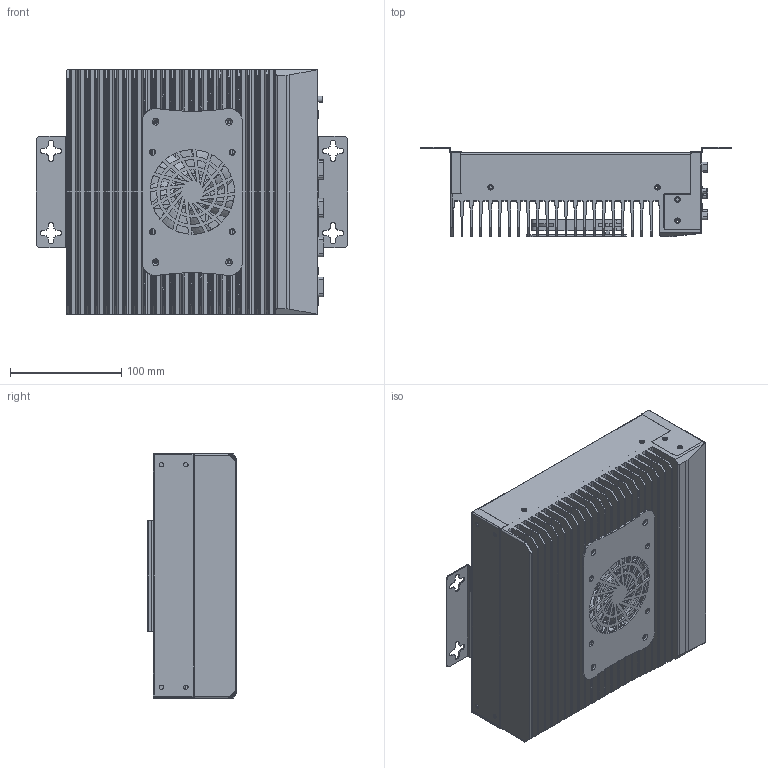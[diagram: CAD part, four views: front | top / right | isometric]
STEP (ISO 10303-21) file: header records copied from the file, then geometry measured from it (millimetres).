
FILE_DESCRIPTION((''),'2;1');
FILE_NAME('PRT0005','2025-06-26T11:28:20',('Administrator'),(''),'CREO PARAMETRIC BY PTC INC, 2022073','CREO PARAMETRIC BY PTC INC, 2022073','');
FILE_SCHEMA(('AUTOMOTIVE_DESIGN { 1 0 10303 214 1 1 1 1 }'));
Products named in the file (1): PRT0005
Bounding box: 279.7 x 80 x 220 mm (x, y, z)
Volume: 1065655.8 mm3; surface area: 659386.4 mm2
Topology: 1 solids, 2 shells, 3089 faces, 8522 edges, 5442 vertices
Faces by surface type: plane 1605, cylinder 1153, torus 136, sphere 114, cone 54, bspline 27
Entity records: 129276 total; most frequent: CARTESIAN_POINT 23066, DIRECTION 16888, ORIENTED_EDGE 16800, PRESENTATION_STYLE_ASSIGNMENT 8462, STYLED_ITEM 8401, CURVE_STYLE 8400, EDGE_CURVE 8400, AXIS2_PLACEMENT_3D 5910
